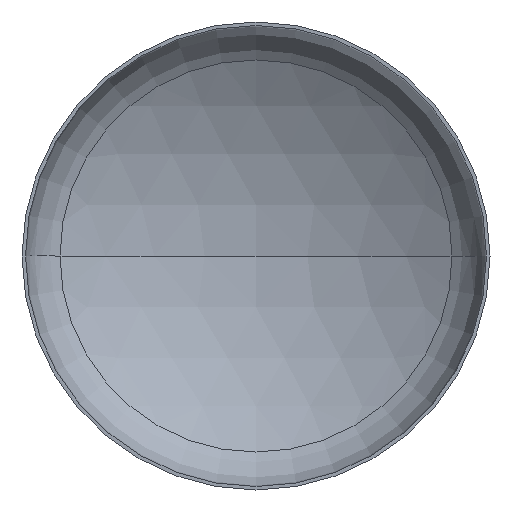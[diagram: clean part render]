
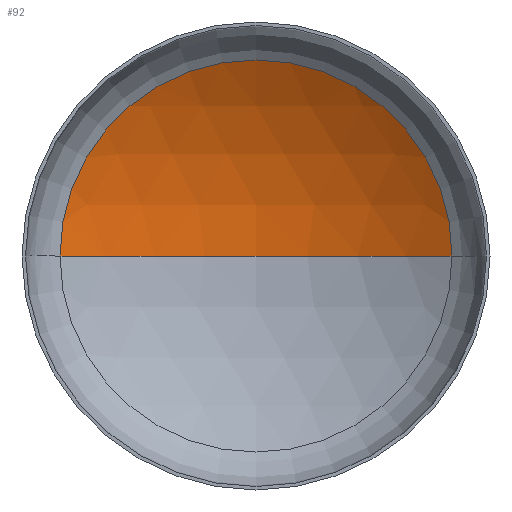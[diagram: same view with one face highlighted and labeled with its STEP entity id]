
A CAD part, front view. The second image highlights one B-rep face of the part: STEP entity #92.
In plain terms, the highlighted spherical face has radius 3600 mm.
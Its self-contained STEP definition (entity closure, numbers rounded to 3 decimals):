
#3 = AXIS2_PLACEMENT_3D ( 'NONE', #64, #405, #260 ) ;
#15 = AXIS2_PLACEMENT_3D ( 'NONE', #341, #116, #24 ) ;
#17 = ORIENTED_EDGE ( 'NONE', *, *, #343, .T. ) ;
#18 = EDGE_LOOP ( 'NONE', ( #114, #95, #17 ) ) ;
#20 = AXIS2_PLACEMENT_3D ( 'NONE', #240, #404, #357 ) ;
#24 = DIRECTION ( 'NONE',  ( -1., 0., 0. ) ) ;
#47 = AXIS2_PLACEMENT_3D ( 'NONE', #130, #299, #298 ) ;
#49 = FACE_OUTER_BOUND ( 'NONE', #18, .T. ) ;
#64 = CARTESIAN_POINT ( 'NONE',  ( 0., -2364.992, 0. ) ) ;
#92 = ADVANCED_FACE ( 'NONE', ( #49 ), #243, .F. ) ;
#93 = CIRCLE ( 'NONE', #15, 3600. ) ;
#95 = ORIENTED_EDGE ( 'NONE', *, *, #346, .T. ) ;
#114 = ORIENTED_EDGE ( 'NONE', *, *, #389, .F. ) ;
#116 = DIRECTION ( 'NONE',  ( 0., 0., -1. ) ) ;
#130 = CARTESIAN_POINT ( 'NONE',  ( 0., -2364.992, 0. ) ) ;
#169 = CIRCLE ( 'NONE', #3, 3600. ) ;
#184 = VERTEX_POINT ( 'NONE', #380 ) ;
#217 = VERTEX_POINT ( 'NONE', #279 ) ;
#230 = VERTEX_POINT ( 'NONE', #232 ) ;
#232 = CARTESIAN_POINT ( 'NONE',  ( 1884.888, 702.124, 0. ) ) ;
#240 = CARTESIAN_POINT ( 'NONE',  ( 0., 702.124, 0. ) ) ;
#243 = SPHERICAL_SURFACE ( 'NONE', #47, 3600. ) ;
#260 = DIRECTION ( 'NONE',  ( 1., 0., 0. ) ) ;
#279 = CARTESIAN_POINT ( 'NONE',  ( 0., 1235.008, 0. ) ) ;
#298 = DIRECTION ( 'NONE',  ( -1., 0., 0. ) ) ;
#299 = DIRECTION ( 'NONE',  ( 0., 0., -1. ) ) ;
#341 = CARTESIAN_POINT ( 'NONE',  ( 0., -2364.992, 0. ) ) ;
#343 = EDGE_CURVE ( 'NONE', #230, #184, #397, .T. ) ;
#346 = EDGE_CURVE ( 'NONE', #217, #230, #93, .T. ) ;
#357 = DIRECTION ( 'NONE',  ( 1., 0., 0. ) ) ;
#380 = CARTESIAN_POINT ( 'NONE',  ( -1884.888, 702.124, 0. ) ) ;
#389 = EDGE_CURVE ( 'NONE', #217, #184, #169, .T. ) ;
#397 = CIRCLE ( 'NONE', #20, 1884.888 ) ;
#404 = DIRECTION ( 'NONE',  ( 0., -1., 0. ) ) ;
#405 = DIRECTION ( 'NONE',  ( 0., 0., 1. ) ) ;
